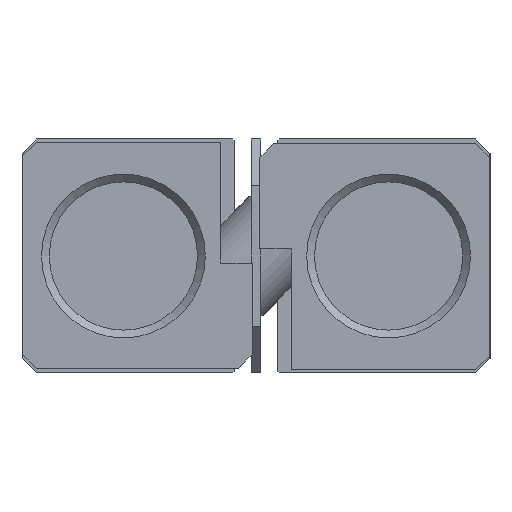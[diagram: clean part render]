
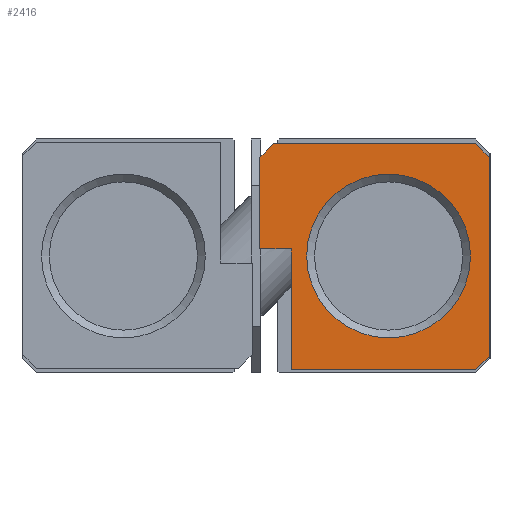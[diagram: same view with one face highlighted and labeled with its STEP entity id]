
A CAD part, left-side view. The second image highlights one B-rep face of the part: STEP entity #2416.
In plain terms, the highlighted planar face has unit normal (-1, 0, 0).
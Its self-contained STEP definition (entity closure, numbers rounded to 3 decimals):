
#97=CIRCLE('',#2583,5.25);
#267=ORIENTED_EDGE('',*,*,#875,.F.);
#268=ORIENTED_EDGE('',*,*,#857,.F.);
#269=ORIENTED_EDGE('',*,*,#874,.F.);
#270=ORIENTED_EDGE('',*,*,#872,.F.);
#271=ORIENTED_EDGE('',*,*,#870,.F.);
#272=ORIENTED_EDGE('',*,*,#868,.F.);
#273=ORIENTED_EDGE('',*,*,#866,.F.);
#274=ORIENTED_EDGE('',*,*,#864,.F.);
#275=ORIENTED_EDGE('',*,*,#862,.F.);
#276=ORIENTED_EDGE('',*,*,#860,.F.);
#857=EDGE_CURVE('',#1174,#1175,#1418,.T.);
#860=EDGE_CURVE('',#1175,#1176,#1421,.T.);
#862=EDGE_CURVE('',#1176,#1177,#1423,.T.);
#864=EDGE_CURVE('',#1177,#1178,#1425,.T.);
#866=EDGE_CURVE('',#1178,#1179,#1427,.T.);
#868=EDGE_CURVE('',#1179,#1180,#1429,.T.);
#870=EDGE_CURVE('',#1180,#1181,#1431,.T.);
#872=EDGE_CURVE('',#1181,#1182,#1433,.T.);
#874=EDGE_CURVE('',#1182,#1174,#1435,.T.);
#875=EDGE_CURVE('',#1183,#1183,#97,.T.);
#1174=VERTEX_POINT('',#3568);
#1175=VERTEX_POINT('',#3569);
#1176=VERTEX_POINT('',#3574);
#1177=VERTEX_POINT('',#3578);
#1178=VERTEX_POINT('',#3582);
#1179=VERTEX_POINT('',#3586);
#1180=VERTEX_POINT('',#3590);
#1181=VERTEX_POINT('',#3594);
#1182=VERTEX_POINT('',#3598);
#1183=VERTEX_POINT('',#3604);
#1418=LINE('',#3567,#1677);
#1421=LINE('',#3573,#1680);
#1423=LINE('',#3577,#1682);
#1425=LINE('',#3581,#1684);
#1427=LINE('',#3585,#1686);
#1429=LINE('',#3589,#1688);
#1431=LINE('',#3593,#1690);
#1433=LINE('',#3597,#1692);
#1435=LINE('',#3601,#1694);
#1677=VECTOR('',#2860,1000.);
#1680=VECTOR('',#2865,1000.);
#1682=VECTOR('',#2869,1000.);
#1684=VECTOR('',#2873,1000.);
#1686=VECTOR('',#2877,1000.);
#1688=VECTOR('',#2881,1000.);
#1690=VECTOR('',#2885,1000.);
#1692=VECTOR('',#2889,1000.);
#1694=VECTOR('',#2893,1000.);
#1909=EDGE_LOOP('',(#267));
#1910=EDGE_LOOP('',(#268,#269,#270,#271,#272,#273,#274,#275,#276));
#2112=FACE_BOUND('',#1909,.T.);
#2113=FACE_BOUND('',#1910,.T.);
#2311=PLANE('',#2582);
#2416=ADVANCED_FACE('',(#2112,#2113),#2311,.F.);
#2582=AXIS2_PLACEMENT_3D('',#3602,#2894,#2895);
#2583=AXIS2_PLACEMENT_3D('',#3603,#2896,#2897);
#2860=DIRECTION('',(0.,-1.,0.));
#2865=DIRECTION('',(0.,-0.707,-0.707));
#2869=DIRECTION('',(0.,0.,-1.));
#2873=DIRECTION('',(0.,0.707,-0.707));
#2877=DIRECTION('',(0.,1.,0.));
#2881=DIRECTION('',(0.,0.,1.));
#2885=DIRECTION('',(0.,1.,0.));
#2889=DIRECTION('',(0.,0.,1.));
#2893=DIRECTION('',(0.,-0.707,0.707));
#2894=DIRECTION('',(1.,0.,0.));
#2895=DIRECTION('',(0.,1.,0.));
#2896=DIRECTION('',(-1.,0.,0.));
#2897=DIRECTION('',(0.,0.,1.));
#3567=CARTESIAN_POINT('',(0.,-1.12,7.2));
#3568=CARTESIAN_POINT('',(0.,-1.12,7.2));
#3569=CARTESIAN_POINT('',(0.,-14.08,7.2));
#3573=CARTESIAN_POINT('',(0.,-14.08,7.2));
#3574=CARTESIAN_POINT('',(0.,-14.95,6.33));
#3577=CARTESIAN_POINT('',(0.,-14.95,6.33));
#3578=CARTESIAN_POINT('',(0.,-14.95,-6.43));
#3581=CARTESIAN_POINT('',(0.,-14.95,-6.43));
#3582=CARTESIAN_POINT('',(0.,-14.08,-7.3));
#3585=CARTESIAN_POINT('',(0.,-14.08,-7.3));
#3586=CARTESIAN_POINT('',(0.,-2.25,-7.3));
#3589=CARTESIAN_POINT('',(0.,-2.25,-7.3));
#3590=CARTESIAN_POINT('',(0.,-2.25,0.45));
#3593=CARTESIAN_POINT('',(0.,-2.25,0.45));
#3594=CARTESIAN_POINT('',(0.,-0.25,0.45));
#3597=CARTESIAN_POINT('',(0.,-0.25,0.45));
#3598=CARTESIAN_POINT('',(0.,-0.25,6.33));
#3601=CARTESIAN_POINT('',(0.,-0.25,6.33));
#3602=CARTESIAN_POINT('',(0.,0.,0.));
#3603=CARTESIAN_POINT('',(0.,-8.5,0.));
#3604=CARTESIAN_POINT('',(0.,-8.5,5.25));
